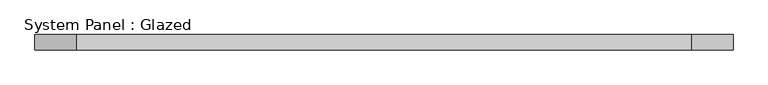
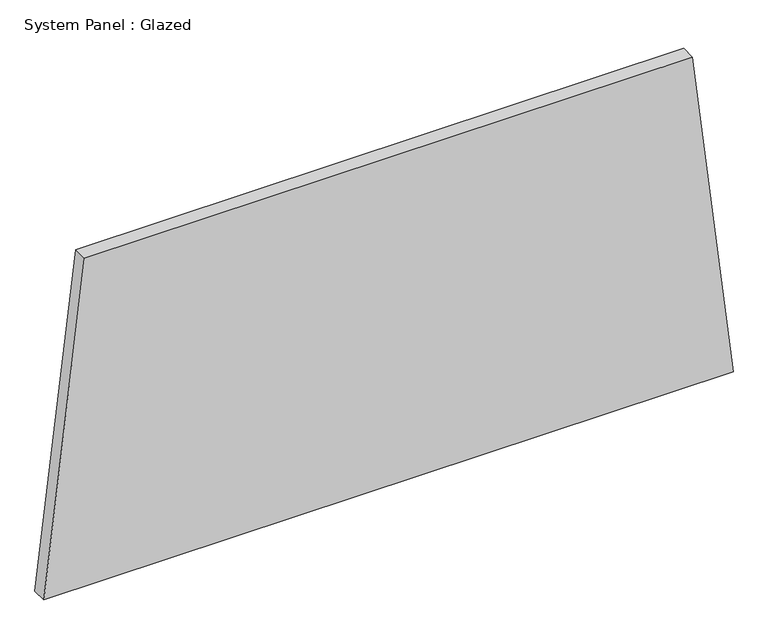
"""IFC4 building model written with IfcOpenShell, lengths in millimetres: plate geometry, System Panel : Glazed."""

import ifcopenshell
import ifcopenshell.guid

model = None  # the IFC model being written
_history = None  # IfcOwnerHistory: only IFC2X3 demands one
_inside = {}  # id of a spatial element -> (the spatial element, [elements in it])
_under = {}  # id of a project, library or spatial element -> (it, [spatial elements below it])
_declared = {}  # id of a project -> (the project, [libraries it declares])
_typed = {}  # id of a type object -> (the type object, [elements of that type])
_made_of = {}  # id of a material, layer set ... -> (it, [elements and type objects made of it])


def new_model(schema):
    """Start an empty IFC model of exactly this schema.

    Asked for "IFC4X3", IfcOpenShell would pick the latest addendum, in which some entities
    have other attributes; the version numbers below select the first issue.
    IFC2X3 requires an IfcOwnerHistory on every rooted entity: one is made here for all.
    """
    global model, _history
    if schema == "IFC4X3":
        model = ifcopenshell.file(schema_version=(4, 3, 0, 0))
    else:
        model = ifcopenshell.file(schema=schema)
    _inside.clear()
    _under.clear()
    _declared.clear()
    _typed.clear()
    _made_of.clear()
    _history = None
    if model.schema == "IFC2X3":
        org = make("IfcOrganization", Name="unknown")
        user = make(
            "IfcPersonAndOrganization",
            ThePerson=make("IfcPerson", FamilyName="unknown"),
            TheOrganization=org,
        )
        app = make(
            "IfcApplication",
            ApplicationDeveloper=org,
            Version="unknown",
            ApplicationFullName="unknown",
            ApplicationIdentifier="unknown",
        )
        _history = make(
            "IfcOwnerHistory",
            OwningUser=user,
            OwningApplication=app,
            ChangeAction="ADDED",
            CreationDate=0,
        )
    return model


def make(cls, **values):
    """One entity of the class cls with the attributes given. An attribute that is None is left unset."""
    return model.create_entity(
        cls, **{name: value for name, value in values.items() if value is not None}
    )


def rooted(cls, **values):
    """An entity with a GlobalId (a new one), such as an element, a storey or a relation."""
    return make(cls, GlobalId=ifcopenshell.guid.new(), OwnerHistory=_history, **values)


def si_unit(unit_type, name, prefix=None):
    """IfcSIUnit, for example si_unit("LENGTHUNIT", "METRE", prefix="MILLI")."""
    return make("IfcSIUnit", UnitType=unit_type, Prefix=prefix, Name=name)


def assignment(units):
    """IfcUnitAssignment: the units of a project."""
    return None if units is None else make("IfcUnitAssignment", Units=units)


def point(xyz):
    """IfcCartesianPoint."""
    return None if xyz is None else make("IfcCartesianPoint", Coordinates=xyz)


def direction(xyz):
    """IfcDirection."""
    return None if xyz is None else make("IfcDirection", DirectionRatios=xyz)


def frame(location, z_axis=None, x_axis=None):
    """IfcAxis2Placement3D, a coordinate frame: its origin and axes. An axis left out is left unset."""
    return make(
        "IfcAxis2Placement3D",
        Location=point(location),
        Axis=direction(z_axis),
        RefDirection=direction(x_axis),
    )


def origin():
    """The frame at (0, 0, 0) with its axes left unset."""
    return frame((0.0, 0.0, 0.0))


def place(relative_to, where):
    """IfcLocalPlacement: puts the frame where relative to a parent placement (None: the world)."""
    return make(
        "IfcLocalPlacement", PlacementRelTo=relative_to, RelativePlacement=where
    )


def context(
    kind, dimensions, precision=None, world=None, true_north=None, identifier=None
):
    """IfcGeometricRepresentationContext, for example the 3D "Model" context."""
    return make(
        "IfcGeometricRepresentationContext",
        ContextIdentifier=identifier,
        ContextType=kind,
        CoordinateSpaceDimension=dimensions,
        Precision=precision,
        WorldCoordinateSystem=world,
        TrueNorth=true_north,
    )


def project(units=None, contexts=None):
    """IfcProject with its units and contexts."""
    return rooted(
        "IfcProject",
        Name="project",
        RepresentationContexts=contexts,
        UnitsInContext=assignment(units),
    )


def spatial(cls, under=None, at=None, **own):
    """A site, building, storey or space (cls), placed at a placement, below another one or the project."""
    s = rooted(cls, ObjectPlacement=at, **own)
    if under is not None:
        _under.setdefault(under.id(), (under, []))[1].append(s)
    return s


def polyline(points):
    """IfcPolyline through the points."""
    return make("IfcPolyline", Points=[point(p) for p in points])


def outline(outer, holes=None, kind="AREA"):
    """IfcArbitraryClosedProfileDef: a profile drawn as a closed curve; with holes, ...WithVoids."""
    if holes is None:
        return make("IfcArbitraryClosedProfileDef", ProfileType=kind, OuterCurve=outer)
    return make(
        "IfcArbitraryProfileDefWithVoids",
        ProfileType=kind,
        OuterCurve=outer,
        InnerCurves=holes,
    )


def extrude(swept, where, along, depth):
    """IfcExtrudedAreaSolid: the profile swept, set in the frame where, extruded along a direction by depth."""
    return make(
        "IfcExtrudedAreaSolid",
        SweptArea=swept,
        Position=where,
        ExtrudedDirection=direction(along),
        Depth=depth,
    )


def shape(context_of_items, identifier, shape_type, items):
    """IfcShapeRepresentation: the items that make up one representation, for example the "Body"."""
    return make(
        "IfcShapeRepresentation",
        ContextOfItems=context_of_items,
        RepresentationIdentifier=identifier,
        RepresentationType=shape_type,
        Items=items,
    )


def source(mapping_origin, context_of_items, identifier, shape_type, items):
    """IfcRepresentationMap: a shape defined once, which mapped items show again and again."""
    return make(
        "IfcRepresentationMap",
        MappingOrigin=mapping_origin,
        MappedRepresentation=shape(context_of_items, identifier, shape_type, items),
    )


def transform(
    local_origin,
    x_axis=None,
    y_axis=None,
    z_axis=None,
    scale=None,
    scale2=None,
    scale3=None,
    uniform=True,
):
    """IfcCartesianTransformationOperator3D, or its non-uniform kind. x_axis, y_axis, z_axis: its Axis1, 2, 3."""
    if uniform:
        return make(
            "IfcCartesianTransformationOperator3D",
            Axis1=direction(x_axis),
            Axis2=direction(y_axis),
            LocalOrigin=point(local_origin),
            Scale=scale,
            Axis3=direction(z_axis),
        )
    return make(
        "IfcCartesianTransformationOperator3DnonUniform",
        Axis1=direction(x_axis),
        Axis2=direction(y_axis),
        LocalOrigin=point(local_origin),
        Scale=scale,
        Axis3=direction(z_axis),
        Scale2=scale2,
        Scale3=scale3,
    )


def mapped(mapping_source, mapping_target):
    """IfcMappedItem: shows the shape of a source again, moved by a transform."""
    return make(
        "IfcMappedItem", MappingSource=mapping_source, MappingTarget=mapping_target
    )


def made_of(thing, what):
    """Note that an element or type object is made of a material, layer set ...; save() writes the relation."""
    if what is not None:
        _made_of.setdefault(what.id(), (what, []))[1].append(thing)
    return thing


def element(
    cls,
    number,
    at=None,
    inside=None,
    cuts=None,
    type_object=None,
    material=None,
    context=None,
    identifier="Body",
    shape_type=None,
    held_by="IfcProductDefinitionShape",
    body=None,
    shapes=None,
    **own,
):
    """One element of the class cls, such as IfcWall. Its Tag is "e" and its number.

    at: its placement. inside: the storey or other place that contains it. cuts: it is an
    opening in that element (IfcRelVoidsElement). A single representation is given by context,
    identifier, shape_type and body (its items); several are given by shapes. held_by: the class
    of the entity that holds the representations. save() writes the other relations.
    """
    e = rooted(cls, Tag="e%d" % number, ObjectPlacement=at, **own)
    if body is not None:
        shapes = [shape(context, identifier, shape_type, body)]
    if shapes is not None:
        e.Representation = make(held_by, Representations=shapes)
    if inside is not None:
        _inside.setdefault(inside.id(), (inside, []))[1].append(e)
    if cuts is not None:
        rooted(
            "IfcRelVoidsElement", RelatingBuildingElement=cuts, RelatedOpeningElement=e
        )
    if type_object is not None:
        _typed.setdefault(type_object.id(), (type_object, []))[1].append(e)
    return made_of(e, material)


def aggregate(whole, parts):
    """IfcRelAggregates: a whole, such as a stair, and the parts it consists of."""
    return rooted("IfcRelAggregates", RelatingObject=whole, RelatedObjects=parts)


def save(model, path):
    """Write the relations noted so far, then the file.

    IfcRelAggregates (storeys below a building ...), IfcRelContainedInSpatialStructure (elements
    in a storey), IfcRelDefinesByType, IfcRelAssociatesMaterial and IfcRelDeclares: one each for
    every whole, place, type object, material and project.
    """
    for whole, parts in _under.values():
        aggregate(whole, parts)
    for where, things in _inside.values():
        rooted(
            "IfcRelContainedInSpatialStructure",
            RelatedElements=things,
            RelatingStructure=where,
        )
    for kind, things in _typed.values():
        rooted("IfcRelDefinesByType", RelatedObjects=things, RelatingType=kind)
    for what, things in _made_of.values():
        rooted("IfcRelAssociatesMaterial", RelatedObjects=things, RelatingMaterial=what)
    for by, libraries in _declared.values():
        rooted("IfcRelDeclares", RelatingContext=by, RelatedDefinitions=libraries)
    model.write(path)


def system_panel_glazed_fd5b3178(model_context):
    return source(origin(), model_context, "Body", "SweptSolid", [
        extrude(outline(polyline([(0.0, -576.4839086), (0.0, 576.4839086), (580.0408914, 508.3783689), (580.0408914, -508.3783689), (0.0, -576.4839086)])), frame((0.0, -44.45, 0.0), z_axis=(0.0, 1.0, 0.0), x_axis=(0.0, 0.0, 1.0)), (0.0, 0.0, 1.0), 25.4),
    ])


if __name__ == "__main__":
    model = new_model("IFC4")
    model_context = context("Model", 3, world=origin())
    ifc_project = project(units=[si_unit("LENGTHUNIT", "METRE", prefix="MILLI")], contexts=[model_context])
    site = spatial("IfcSite", under=ifc_project)
    building = spatial("IfcBuilding", under=site)
    placement = place(None, origin())
    system_panel_glazed_shape = system_panel_glazed_fd5b3178(model_context)
    element("IfcPlate", 1, ObjectType="System Panel : Glazed", at=placement, inside=building, context=model_context, shape_type="MappedRepresentation", body=[
        mapped(system_panel_glazed_shape, transform((0.0, 0.0, 0.0), x_axis=(1.0, 0.0, 0.0), y_axis=(0.0, 1.0, 0.0), z_axis=(0.0, 0.0, 1.0))),
    ])
    save(model, "model.ifc")
